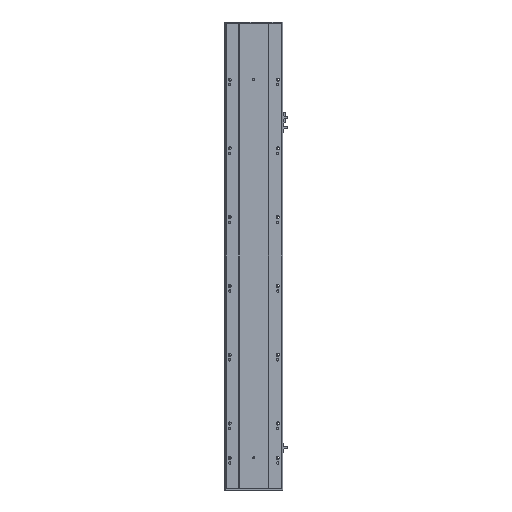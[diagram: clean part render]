
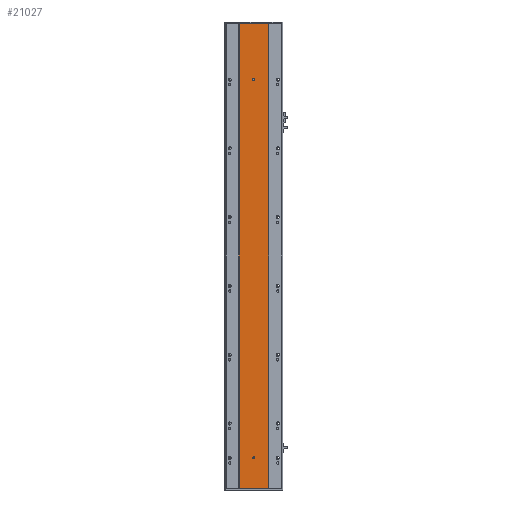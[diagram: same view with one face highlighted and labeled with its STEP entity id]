
A CAD part, front view. The second image highlights one B-rep face of the part: STEP entity #21027.
In plain terms, the highlighted planar face has unit normal (0, -1, 0).
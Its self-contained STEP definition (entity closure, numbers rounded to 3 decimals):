
#73 = DIRECTION ( 'NONE',  ( 0., 0., 1. ) ) ;
#273 = EDGE_LOOP ( 'NONE', ( #2194, #5847, #4121, #21821 ) ) ;
#599 = EDGE_CURVE ( 'NONE', #10588, #20385, #17800, .T. ) ;
#930 = EDGE_CURVE ( 'NONE', #23881, #13700, #21535, .T. ) ;
#1541 = AXIS2_PLACEMENT_3D ( 'NONE', #17583, #5572, #19595 ) ;
#2194 = ORIENTED_EDGE ( 'NONE', *, *, #7557, .T. ) ;
#2575 = AXIS2_PLACEMENT_3D ( 'NONE', #23686, #21768, #9833 ) ;
#3519 = DIRECTION ( 'NONE',  ( 0., 1., 0. ) ) ;
#3959 = DIRECTION ( 'NONE',  ( 0., 0., 1. ) ) ;
#4121 = ORIENTED_EDGE ( 'NONE', *, *, #25514, .F. ) ;
#4156 = CARTESIAN_POINT ( 'NONE',  ( 126.916, 2.57, 0. ) ) ;
#5305 = CARTESIAN_POINT ( 'NONE',  ( 42.916, 2.57, 0. ) ) ;
#5379 = AXIS2_PLACEMENT_3D ( 'NONE', #15567, #3519, #17586 ) ;
#5572 = DIRECTION ( 'NONE',  ( 0., 1., 0. ) ) ;
#5847 = ORIENTED_EDGE ( 'NONE', *, *, #599, .F. ) ;
#6767 = CARTESIAN_POINT ( 'NONE',  ( 85., 2.57, 1185.5 ) ) ;
#6973 = EDGE_LOOP ( 'NONE', ( #18827, #14548 ) ) ;
#7045 = LINE ( 'NONE', #19765, #11748 ) ;
#7180 = VECTOR ( 'NONE', #14893, 1000. ) ;
#7192 = EDGE_CURVE ( 'NONE', #20756, #24403, #23037, .T. ) ;
#7557 = EDGE_CURVE ( 'NONE', #13700, #20385, #10235, .T. ) ;
#7626 = EDGE_CURVE ( 'NONE', #19536, #7637, #13015, .T. ) ;
#7637 = VERTEX_POINT ( 'NONE', #7641 ) ;
#7641 = CARTESIAN_POINT ( 'NONE',  ( 85., 2.57, 85.5 ) ) ;
#8295 = ORIENTED_EDGE ( 'NONE', *, *, #7192, .T. ) ;
#8603 = CARTESIAN_POINT ( 'NONE',  ( 85., 2.57, 91.5 ) ) ;
#8883 = ORIENTED_EDGE ( 'NONE', *, *, #23736, .T. ) ;
#9156 = CARTESIAN_POINT ( 'NONE',  ( 42.916, 2.57, 1351. ) ) ;
#9331 = FACE_BOUND ( 'NONE', #11264, .T. ) ;
#9598 = AXIS2_PLACEMENT_3D ( 'NONE', #12019, #25966, #14019 ) ;
#9826 = DIRECTION ( 'NONE',  ( -1., 0., 0. ) ) ;
#9833 = DIRECTION ( 'NONE',  ( 0., 0., 1. ) ) ;
#10235 = LINE ( 'NONE', #9156, #25501 ) ;
#10588 = VERTEX_POINT ( 'NONE', #5305 ) ;
#11264 = EDGE_LOOP ( 'NONE', ( #8295, #8883 ) ) ;
#11748 = VECTOR ( 'NONE', #9826, 1000. ) ;
#12019 = CARTESIAN_POINT ( 'NONE',  ( 85., 2.57, 1188.5 ) ) ;
#12118 = EDGE_CURVE ( 'NONE', #7637, #19536, #18319, .T. ) ;
#12214 = DIRECTION ( 'NONE',  ( 0., 1., 0. ) ) ;
#13015 = CIRCLE ( 'NONE', #1541, 3. ) ;
#13386 = AXIS2_PLACEMENT_3D ( 'NONE', #24146, #12214, #73 ) ;
#13700 = VERTEX_POINT ( 'NONE', #15007 ) ;
#14019 = DIRECTION ( 'NONE',  ( 0., 0., 1. ) ) ;
#14548 = ORIENTED_EDGE ( 'NONE', *, *, #7626, .T. ) ;
#14893 = DIRECTION ( 'NONE',  ( 0., 0., 1. ) ) ;
#15007 = CARTESIAN_POINT ( 'NONE',  ( 126.916, 2.57, 1351. ) ) ;
#15157 = DIRECTION ( 'NONE',  ( -1., 0., 0. ) ) ;
#15513 = CARTESIAN_POINT ( 'NONE',  ( 42.916, 2.57, 1351. ) ) ;
#15567 = CARTESIAN_POINT ( 'NONE',  ( 85., 2.57, 88.5 ) ) ;
#17583 = CARTESIAN_POINT ( 'NONE',  ( 85., 2.57, 88.5 ) ) ;
#17586 = DIRECTION ( 'NONE',  ( 0., 0., 1. ) ) ;
#17800 = LINE ( 'NONE', #22187, #7180 ) ;
#18319 = CIRCLE ( 'NONE', #5379, 3. ) ;
#18827 = ORIENTED_EDGE ( 'NONE', *, *, #12118, .T. ) ;
#19536 = VERTEX_POINT ( 'NONE', #8603 ) ;
#19595 = DIRECTION ( 'NONE',  ( 0., 0., 1. ) ) ;
#19765 = CARTESIAN_POINT ( 'NONE',  ( 42.916, 2.57, 0. ) ) ;
#19769 = PLANE ( 'NONE',  #2575 ) ;
#20385 = VERTEX_POINT ( 'NONE', #15513 ) ;
#20421 = CIRCLE ( 'NONE', #9598, 3. ) ;
#20756 = VERTEX_POINT ( 'NONE', #6767 ) ;
#20907 = VECTOR ( 'NONE', #3959, 1000. ) ;
#21027 = ADVANCED_FACE ( 'NONE', ( #25226, #9331, #24609 ), #19769, .F. ) ;
#21535 = LINE ( 'NONE', #4156, #20907 ) ;
#21768 = DIRECTION ( 'NONE',  ( 0., 1., 0. ) ) ;
#21821 = ORIENTED_EDGE ( 'NONE', *, *, #930, .T. ) ;
#22187 = CARTESIAN_POINT ( 'NONE',  ( 42.916, 2.57, 0. ) ) ;
#23037 = CIRCLE ( 'NONE', #13386, 3. ) ;
#23686 = CARTESIAN_POINT ( 'NONE',  ( 42.916, 2.57, 0. ) ) ;
#23736 = EDGE_CURVE ( 'NONE', #24403, #20756, #20421, .T. ) ;
#23881 = VERTEX_POINT ( 'NONE', #24396 ) ;
#24146 = CARTESIAN_POINT ( 'NONE',  ( 85., 2.57, 1188.5 ) ) ;
#24396 = CARTESIAN_POINT ( 'NONE',  ( 126.916, 2.57, 0. ) ) ;
#24403 = VERTEX_POINT ( 'NONE', #25388 ) ;
#24609 = FACE_OUTER_BOUND ( 'NONE', #273, .T. ) ;
#25226 = FACE_BOUND ( 'NONE', #6973, .T. ) ;
#25388 = CARTESIAN_POINT ( 'NONE',  ( 85., 2.57, 1191.5 ) ) ;
#25501 = VECTOR ( 'NONE', #15157, 1000. ) ;
#25514 = EDGE_CURVE ( 'NONE', #23881, #10588, #7045, .T. ) ;
#25966 = DIRECTION ( 'NONE',  ( 0., 1., 0. ) ) ;
